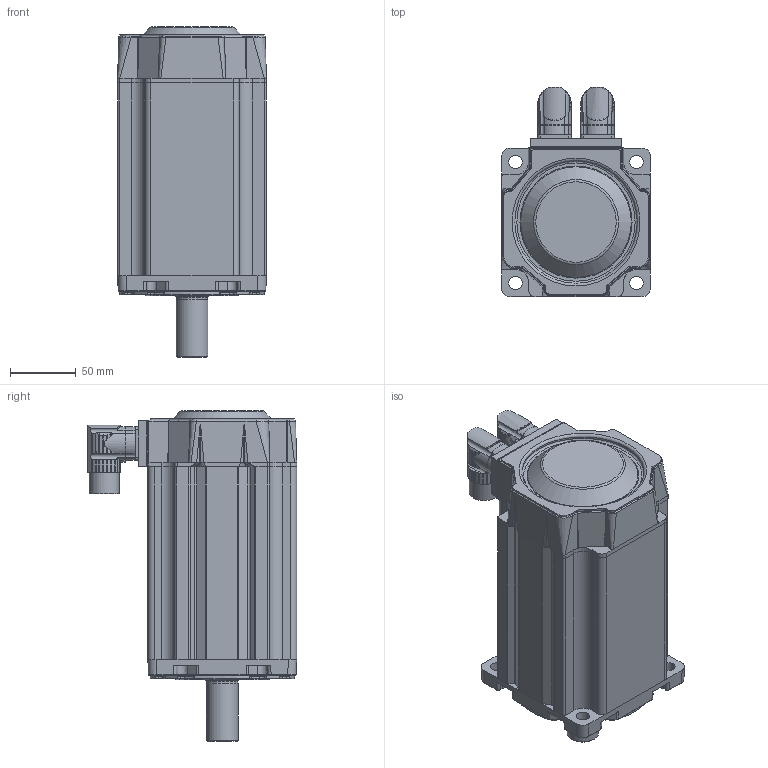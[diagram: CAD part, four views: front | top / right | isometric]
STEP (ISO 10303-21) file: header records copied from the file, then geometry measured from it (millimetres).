
FILE_DESCRIPTION((''),'2;1');
FILE_NAME('C:\CAD_work\Dummy_Modeling_Project_02-12-05\3D MODELS\MPP1152XXX_NPSB.stp','2005-12-20T17:16:19',('jevans'),(''),'Autodesk Inventor 10','Autodesk Inventor 10','');
FILE_SCHEMA(('AUTOMOTIVE_DESIGN { 1 0 10303 214 1 1 1 1 }'));
Length unit declared in the file: inch
Products named in the file (1): MPP115_MOTOR
Bounding box: 113.03 x 159.03 x 250.9 mm (x, y, z)
Volume: 2188445.4 mm3; surface area: 166112.6 mm2
Topology: 2 solids, 2 shells, 1017 faces, 2591 edges, 1624 vertices
Faces by surface type: bspline 355, cylinder 321, plane 240, cone 82, torus 17, sphere 2
Full cylindrical faces by diameter (mm): 1.143 x17, 2.032 x6, 2.794 x2, 19.05 x1, 19.685 x1, 22.86 x1, 23.647 x1, 24.003 x1, 24.994 x2, 31.75 x1, 47.549 x1, 54.61 x1, 61.468 x1, 62.001 x1, 62.027 x1, 62.268 x1, 65.634 x1, 69.85 x1, 71.12 x1, 93.066 x1, 109.995 x1
Entity records: 41632 total; most frequent: CARTESIAN_POINT 19320, ORIENTED_EDGE 4952, DIRECTION 4077, EDGE_CURVE 2476, VERTEX_POINT 1598, AXIS2_PLACEMENT_3D 1592, EDGE_LOOP 1168, FACE_OUTER_BOUND 1017
